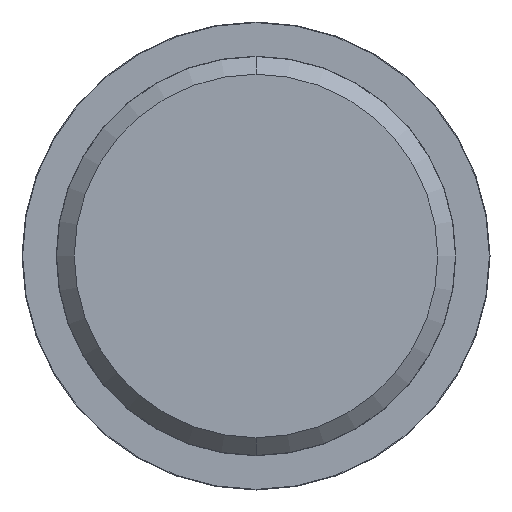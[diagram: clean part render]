
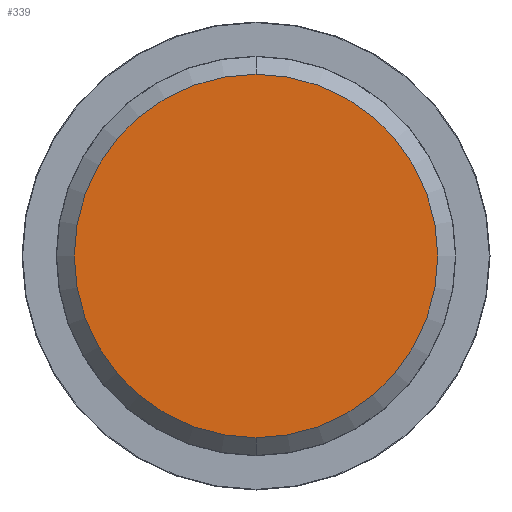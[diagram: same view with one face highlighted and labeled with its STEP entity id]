
A CAD part, front view. The second image highlights one B-rep face of the part: STEP entity #339.
In plain terms, the highlighted planar face has unit normal (0, -1, 0).
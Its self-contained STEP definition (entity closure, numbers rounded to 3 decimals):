
#4 = AXIS2_PLACEMENT_3D ( 'NONE', #446, #457, #515 ) ;
#6 = ORIENTED_EDGE ( 'NONE', *, *, #730, .F. ) ;
#102 = CARTESIAN_POINT ( 'NONE',  ( 0., 0., -15.146 ) ) ;
#116 = DIRECTION ( 'NONE',  ( 0., 0., 1. ) ) ;
#119 = VERTEX_POINT ( 'NONE', #102 ) ;
#225 = CIRCLE ( 'NONE', #650, 15.146 ) ;
#339 = ADVANCED_FACE ( 'NONE', ( #501 ), #428, .F. ) ;
#371 = DIRECTION ( 'NONE',  ( 0., 1., 0. ) ) ;
#409 = AXIS2_PLACEMENT_3D ( 'NONE', #800, #734, #116 ) ;
#416 = CARTESIAN_POINT ( 'NONE',  ( 0., 0., 15.146 ) ) ;
#428 = PLANE ( 'NONE',  #409 ) ;
#446 = CARTESIAN_POINT ( 'NONE',  ( 0., 0., 0. ) ) ;
#457 = DIRECTION ( 'NONE',  ( 0., 1., 0. ) ) ;
#501 = FACE_OUTER_BOUND ( 'NONE', #791, .T. ) ;
#515 = DIRECTION ( 'NONE',  ( 0., 0., 1. ) ) ;
#536 = DIRECTION ( 'NONE',  ( 0., 0., 1. ) ) ;
#650 = AXIS2_PLACEMENT_3D ( 'NONE', #964, #371, #536 ) ;
#714 = VERTEX_POINT ( 'NONE', #416 ) ;
#730 = EDGE_CURVE ( 'NONE', #119, #714, #225, .T. ) ;
#734 = DIRECTION ( 'NONE',  ( 0., 1., 0. ) ) ;
#743 = ORIENTED_EDGE ( 'NONE', *, *, #756, .F. ) ;
#756 = EDGE_CURVE ( 'NONE', #714, #119, #961, .T. ) ;
#791 = EDGE_LOOP ( 'NONE', ( #743, #6 ) ) ;
#800 = CARTESIAN_POINT ( 'NONE',  ( 15.146, 0., 0. ) ) ;
#961 = CIRCLE ( 'NONE', #4, 15.146 ) ;
#964 = CARTESIAN_POINT ( 'NONE',  ( 0., 0., 0. ) ) ;
